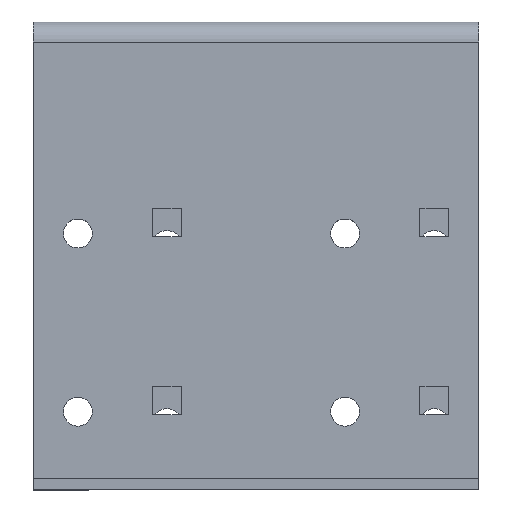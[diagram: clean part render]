
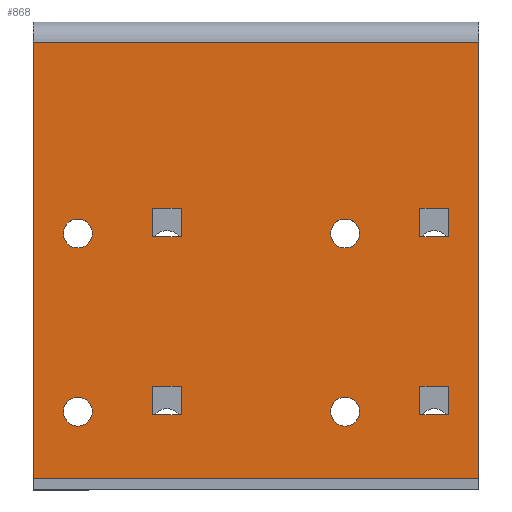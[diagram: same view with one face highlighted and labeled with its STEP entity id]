
A CAD part, top view. The second image highlights one B-rep face of the part: STEP entity #868.
In plain terms, the highlighted planar face has unit normal (0, 0, 1).
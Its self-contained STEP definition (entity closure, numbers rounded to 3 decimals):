
#23=FACE_BOUND('',#104,.T.);
#24=FACE_BOUND('',#105,.T.);
#25=FACE_BOUND('',#106,.T.);
#26=FACE_BOUND('',#107,.T.);
#27=FACE_BOUND('',#108,.T.);
#28=FACE_BOUND('',#109,.T.);
#29=FACE_BOUND('',#110,.T.);
#30=FACE_BOUND('',#111,.T.);
#57=FACE_OUTER_BOUND('',#103,.T.);
#103=EDGE_LOOP('',(#606,#607,#608,#609));
#104=EDGE_LOOP('',(#610));
#105=EDGE_LOOP('',(#611));
#106=EDGE_LOOP('',(#612));
#107=EDGE_LOOP('',(#613));
#108=EDGE_LOOP('',(#614,#615,#616,#617));
#109=EDGE_LOOP('',(#618,#619,#620,#621));
#110=EDGE_LOOP('',(#622,#623,#624,#625));
#111=EDGE_LOOP('',(#626,#627,#628,#629));
#170=LINE('',#1239,#272);
#174=LINE('',#1246,#276);
#175=LINE('',#1249,#277);
#176=LINE('',#1250,#278);
#177=LINE('',#1261,#279);
#178=LINE('',#1263,#280);
#179=LINE('',#1265,#281);
#180=LINE('',#1266,#282);
#181=LINE('',#1269,#283);
#182=LINE('',#1271,#284);
#183=LINE('',#1273,#285);
#184=LINE('',#1274,#286);
#185=LINE('',#1277,#287);
#186=LINE('',#1279,#288);
#187=LINE('',#1281,#289);
#188=LINE('',#1282,#290);
#189=LINE('',#1285,#291);
#190=LINE('',#1287,#292);
#191=LINE('',#1289,#293);
#192=LINE('',#1290,#294);
#272=VECTOR('',#1002,100.);
#276=VECTOR('',#1008,98.);
#277=VECTOR('',#1011,100.);
#278=VECTOR('',#1012,98.);
#279=VECTOR('',#1021,6.4);
#280=VECTOR('',#1022,6.4);
#281=VECTOR('',#1023,6.4);
#282=VECTOR('',#1024,6.4);
#283=VECTOR('',#1025,6.4);
#284=VECTOR('',#1026,6.4);
#285=VECTOR('',#1027,6.4);
#286=VECTOR('',#1028,6.4);
#287=VECTOR('',#1029,6.4);
#288=VECTOR('',#1030,6.4);
#289=VECTOR('',#1031,6.4);
#290=VECTOR('',#1032,6.4);
#291=VECTOR('',#1033,6.4);
#292=VECTOR('',#1034,6.4);
#293=VECTOR('',#1035,6.4);
#294=VECTOR('',#1036,6.4);
#372=CIRCLE('',#921,3.25);
#373=CIRCLE('',#922,3.25);
#374=CIRCLE('',#923,3.25);
#375=CIRCLE('',#924,3.25);
#389=VERTEX_POINT('',#1223);
#392=VERTEX_POINT('',#1230);
#395=VERTEX_POINT('',#1244);
#396=VERTEX_POINT('',#1248);
#397=VERTEX_POINT('',#1251);
#398=VERTEX_POINT('',#1253);
#399=VERTEX_POINT('',#1255);
#400=VERTEX_POINT('',#1257);
#401=VERTEX_POINT('',#1259);
#402=VERTEX_POINT('',#1260);
#403=VERTEX_POINT('',#1262);
#404=VERTEX_POINT('',#1264);
#405=VERTEX_POINT('',#1267);
#406=VERTEX_POINT('',#1268);
#407=VERTEX_POINT('',#1270);
#408=VERTEX_POINT('',#1272);
#409=VERTEX_POINT('',#1275);
#410=VERTEX_POINT('',#1276);
#411=VERTEX_POINT('',#1278);
#412=VERTEX_POINT('',#1280);
#413=VERTEX_POINT('',#1283);
#414=VERTEX_POINT('',#1284);
#415=VERTEX_POINT('',#1286);
#416=VERTEX_POINT('',#1288);
#476=EDGE_CURVE('',#389,#392,#170,.T.);
#480=EDGE_CURVE('',#395,#392,#174,.T.);
#481=EDGE_CURVE('',#396,#395,#175,.T.);
#482=EDGE_CURVE('',#389,#396,#176,.T.);
#483=EDGE_CURVE('',#397,#397,#372,.T.);
#484=EDGE_CURVE('',#398,#398,#373,.T.);
#485=EDGE_CURVE('',#399,#399,#374,.T.);
#486=EDGE_CURVE('',#400,#400,#375,.T.);
#487=EDGE_CURVE('',#401,#402,#177,.T.);
#488=EDGE_CURVE('',#402,#403,#178,.T.);
#489=EDGE_CURVE('',#403,#404,#179,.T.);
#490=EDGE_CURVE('',#404,#401,#180,.T.);
#491=EDGE_CURVE('',#405,#406,#181,.T.);
#492=EDGE_CURVE('',#406,#407,#182,.T.);
#493=EDGE_CURVE('',#407,#408,#183,.T.);
#494=EDGE_CURVE('',#408,#405,#184,.T.);
#495=EDGE_CURVE('',#409,#410,#185,.T.);
#496=EDGE_CURVE('',#410,#411,#186,.T.);
#497=EDGE_CURVE('',#411,#412,#187,.T.);
#498=EDGE_CURVE('',#412,#409,#188,.T.);
#499=EDGE_CURVE('',#413,#414,#189,.T.);
#500=EDGE_CURVE('',#414,#415,#190,.T.);
#501=EDGE_CURVE('',#415,#416,#191,.T.);
#502=EDGE_CURVE('',#416,#413,#192,.T.);
#606=ORIENTED_EDGE('',*,*,#476,.T.);
#607=ORIENTED_EDGE('',*,*,#480,.F.);
#608=ORIENTED_EDGE('',*,*,#481,.F.);
#609=ORIENTED_EDGE('',*,*,#482,.F.);
#610=ORIENTED_EDGE('',*,*,#483,.T.);
#611=ORIENTED_EDGE('',*,*,#484,.T.);
#612=ORIENTED_EDGE('',*,*,#485,.T.);
#613=ORIENTED_EDGE('',*,*,#486,.T.);
#614=ORIENTED_EDGE('',*,*,#487,.T.);
#615=ORIENTED_EDGE('',*,*,#488,.T.);
#616=ORIENTED_EDGE('',*,*,#489,.T.);
#617=ORIENTED_EDGE('',*,*,#490,.T.);
#618=ORIENTED_EDGE('',*,*,#491,.T.);
#619=ORIENTED_EDGE('',*,*,#492,.T.);
#620=ORIENTED_EDGE('',*,*,#493,.T.);
#621=ORIENTED_EDGE('',*,*,#494,.T.);
#622=ORIENTED_EDGE('',*,*,#495,.T.);
#623=ORIENTED_EDGE('',*,*,#496,.T.);
#624=ORIENTED_EDGE('',*,*,#497,.T.);
#625=ORIENTED_EDGE('',*,*,#498,.T.);
#626=ORIENTED_EDGE('',*,*,#499,.T.);
#627=ORIENTED_EDGE('',*,*,#500,.T.);
#628=ORIENTED_EDGE('',*,*,#501,.T.);
#629=ORIENTED_EDGE('',*,*,#502,.T.);
#829=PLANE('',#920);
#868=ADVANCED_FACE('',(#57,#23,#24,#25,#26,#27,#28,#29,#30),#829,.T.);
#920=AXIS2_PLACEMENT_3D('',#1247,#1009,#1010);
#921=AXIS2_PLACEMENT_3D('',#1252,#1013,#1014);
#922=AXIS2_PLACEMENT_3D('',#1254,#1015,#1016);
#923=AXIS2_PLACEMENT_3D('',#1256,#1017,#1018);
#924=AXIS2_PLACEMENT_3D('',#1258,#1019,#1020);
#1002=DIRECTION('',(-1.,0.,0.));
#1008=DIRECTION('',(0.,1.,0.));
#1009=DIRECTION('center_axis',(0.,0.,1.));
#1010=DIRECTION('ref_axis',(1.,0.,0.));
#1011=DIRECTION('',(-1.,0.,0.));
#1012=DIRECTION('',(0.,-1.,0.));
#1013=DIRECTION('center_axis',(0.,0.,-1.));
#1014=DIRECTION('ref_axis',(1.,0.,0.));
#1015=DIRECTION('center_axis',(0.,0.,-1.));
#1016=DIRECTION('ref_axis',(1.,0.,0.));
#1017=DIRECTION('center_axis',(0.,0.,-1.));
#1018=DIRECTION('ref_axis',(1.,0.,0.));
#1019=DIRECTION('center_axis',(0.,0.,-1.));
#1020=DIRECTION('ref_axis',(1.,0.,0.));
#1021=DIRECTION('',(0.,-1.,0.));
#1022=DIRECTION('',(-1.,0.,0.));
#1023=DIRECTION('',(0.,1.,0.));
#1024=DIRECTION('',(1.,0.,0.));
#1025=DIRECTION('',(0.,-1.,0.));
#1026=DIRECTION('',(-1.,0.,0.));
#1027=DIRECTION('',(0.,1.,0.));
#1028=DIRECTION('',(1.,0.,0.));
#1029=DIRECTION('',(0.,-1.,0.));
#1030=DIRECTION('',(-1.,0.,0.));
#1031=DIRECTION('',(0.,1.,0.));
#1032=DIRECTION('',(1.,0.,0.));
#1033=DIRECTION('',(0.,-1.,0.));
#1034=DIRECTION('',(-1.,0.,0.));
#1035=DIRECTION('',(0.,1.,0.));
#1036=DIRECTION('',(1.,0.,0.));
#1223=CARTESIAN_POINT('',(50.,-20.,2.5));
#1230=CARTESIAN_POINT('',(-50.,-20.,2.5));
#1239=CARTESIAN_POINT('',(-25.,-20.,2.5));
#1244=CARTESIAN_POINT('',(-50.,-118.,2.5));
#1246=CARTESIAN_POINT('',(-50.,15.,2.5));
#1247=CARTESIAN_POINT('Origin',(0.,-40.603,2.5));
#1248=CARTESIAN_POINT('',(50.,-118.,2.5));
#1249=CARTESIAN_POINT('',(-50.,-118.,2.5));
#1250=CARTESIAN_POINT('',(50.,-118.,2.5));
#1251=CARTESIAN_POINT('',(-36.75,-103.,2.5));
#1252=CARTESIAN_POINT('Origin',(-40.,-103.,2.5));
#1253=CARTESIAN_POINT('',(23.25,-103.,2.5));
#1254=CARTESIAN_POINT('Origin',(20.,-103.,2.5));
#1255=CARTESIAN_POINT('',(23.25,-63.,2.5));
#1256=CARTESIAN_POINT('Origin',(20.,-63.,2.5));
#1257=CARTESIAN_POINT('',(-36.75,-63.,2.5));
#1258=CARTESIAN_POINT('Origin',(-40.,-63.,2.5));
#1259=CARTESIAN_POINT('',(43.2,-57.3,2.5));
#1260=CARTESIAN_POINT('',(43.2,-63.7,2.5));
#1261=CARTESIAN_POINT('',(43.2,-48.952,2.5));
#1262=CARTESIAN_POINT('',(36.8,-63.7,2.5));
#1263=CARTESIAN_POINT('',(21.6,-63.7,2.5));
#1264=CARTESIAN_POINT('',(36.8,-57.3,2.5));
#1265=CARTESIAN_POINT('',(36.8,-52.152,2.5));
#1266=CARTESIAN_POINT('',(18.4,-57.3,2.5));
#1267=CARTESIAN_POINT('',(-16.8,-97.3,2.5));
#1268=CARTESIAN_POINT('',(-16.8,-103.7,2.5));
#1269=CARTESIAN_POINT('',(-16.8,-68.952,2.5));
#1270=CARTESIAN_POINT('',(-23.2,-103.7,2.5));
#1271=CARTESIAN_POINT('',(-8.4,-103.7,2.5));
#1272=CARTESIAN_POINT('',(-23.2,-97.3,2.5));
#1273=CARTESIAN_POINT('',(-23.2,-72.152,2.5));
#1274=CARTESIAN_POINT('',(-11.6,-97.3,2.5));
#1275=CARTESIAN_POINT('',(43.2,-97.3,2.5));
#1276=CARTESIAN_POINT('',(43.2,-103.7,2.5));
#1277=CARTESIAN_POINT('',(43.2,-68.952,2.5));
#1278=CARTESIAN_POINT('',(36.8,-103.7,2.5));
#1279=CARTESIAN_POINT('',(21.6,-103.7,2.5));
#1280=CARTESIAN_POINT('',(36.8,-97.3,2.5));
#1281=CARTESIAN_POINT('',(36.8,-72.152,2.5));
#1282=CARTESIAN_POINT('',(18.4,-97.3,2.5));
#1283=CARTESIAN_POINT('',(-16.8,-57.3,2.5));
#1284=CARTESIAN_POINT('',(-16.8,-63.7,2.5));
#1285=CARTESIAN_POINT('',(-16.8,-48.952,2.5));
#1286=CARTESIAN_POINT('',(-23.2,-63.7,2.5));
#1287=CARTESIAN_POINT('',(-8.4,-63.7,2.5));
#1288=CARTESIAN_POINT('',(-23.2,-57.3,2.5));
#1289=CARTESIAN_POINT('',(-23.2,-52.152,2.5));
#1290=CARTESIAN_POINT('',(-11.6,-57.3,2.5));
